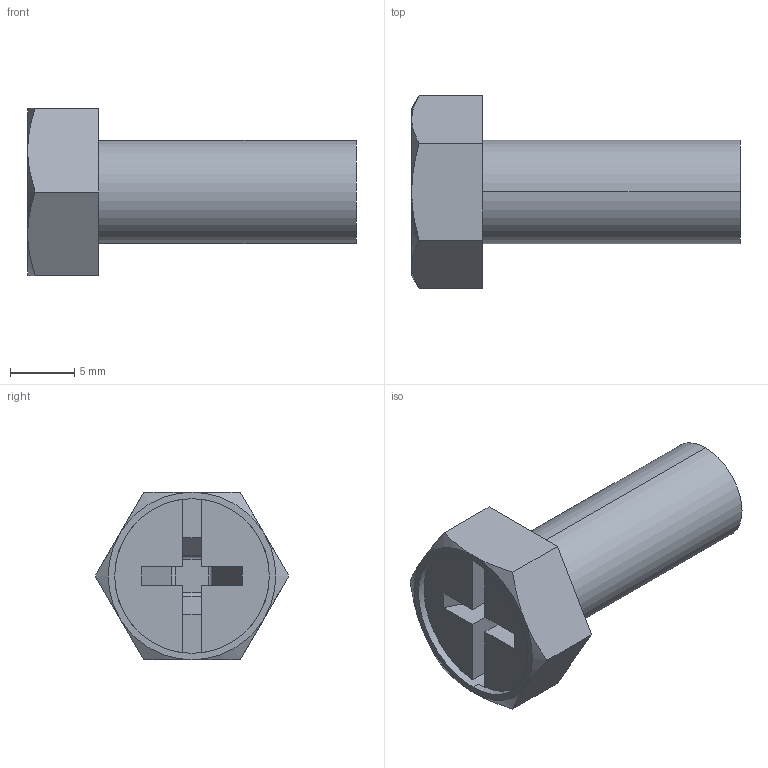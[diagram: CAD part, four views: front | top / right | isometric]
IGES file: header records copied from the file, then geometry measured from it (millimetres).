
Start section:  PTC IGES file: EB-951-8M20.igs
Global section: file name: EB-951-8M20.igs; native system: Creo Parametric by Parametric Technology Corporation; preprocessor: 2012360; author: xeon_3; organization: Unknown; date: 20131224.131429; units: millimetre
Bounding box: 25.5 x 15.01 x 13 mm (x, y, z)
Volume: 1662.3 mm3; surface area: 1174.8 mm2
Topology: 1 solids, 1 shells, 40 faces, 102 edges, 66 vertices
Faces by surface type: bspline 26, revolution 14
